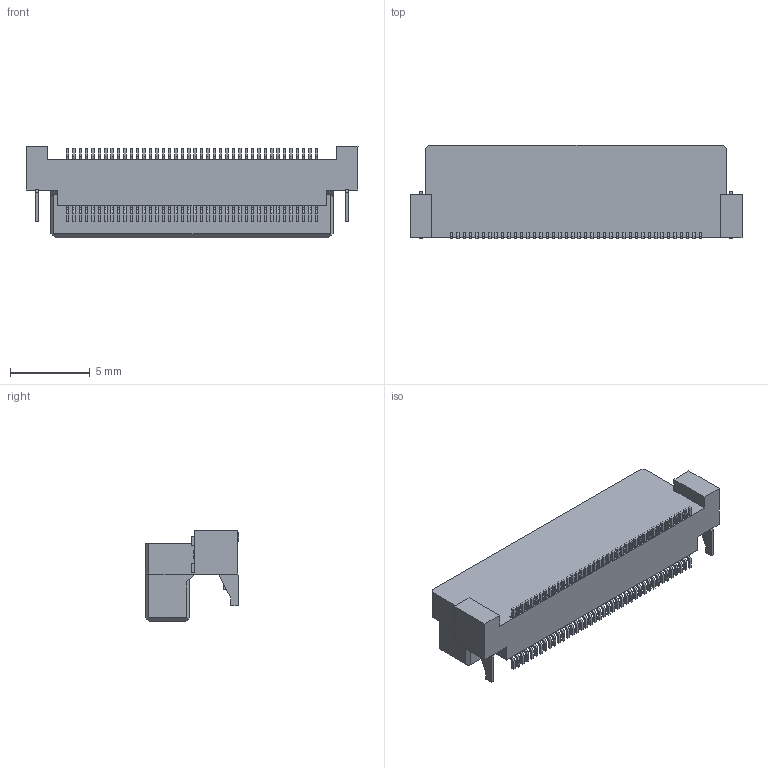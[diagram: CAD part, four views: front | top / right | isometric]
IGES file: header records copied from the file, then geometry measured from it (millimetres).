
Start section: Elysium IGES Interface
Global section: file name: C:\Users\1354\Desktop\P3D162_DU10-080LB.igs; native system: Creo Elements/Direct Modeling 19.0F  14-Feb-2017; preprocessor: Creo Element/Direct IGES_3D V2.2; author: Unknown; organization: Unknown; date: 20171127.142851; units: millimetre
Bounding box: 20.8 x 5.83 x 5.75 mm (x, y, z)
Volume: 331.8 mm3; surface area: 677.6 mm2
Topology: 1 solids, 1 shells, 1224 faces, 3161 edges, 2106 vertices
Faces by surface type: bspline 1224
